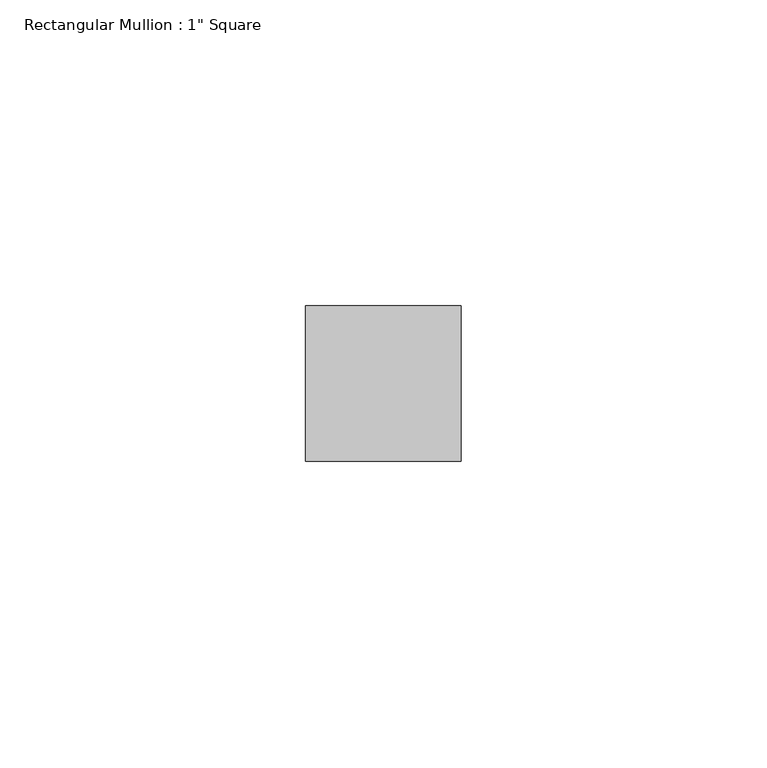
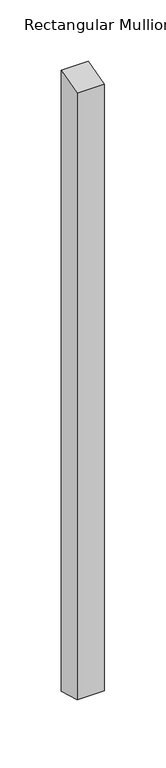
"""IFC4 building model written with IfcOpenShell, lengths in millimetres: member geometry."""

from ifc_helpers import new_model, si_unit, origin, place, context, project, spatial, faceted_brep, source, transform, mapped, element, save


def member_10df8ec0(model_context):
    return source(origin(), model_context, "Body", "Brep", [
        faceted_brep([(-25.4, 12.7, 3.6906694), (0.0, 12.7, 3.7084297), (0.0, 12.7, -612.9412786), (-25.4, 12.7, -612.9252767), (-25.4, -12.7, -3.7261899), (-25.4, -12.7, -606.2427194), (0.0, -12.7, -3.7084297), (0.0, -12.7, -606.2587214)], [[[0, 1, 2, 3]], [[4, 0, 3, 5]], [[6, 4, 5, 7]], [[1, 6, 7, 2]], [[1, 0, 4, 6]], [[2, 7, 5, 3]]]),
    ])


if __name__ == "__main__":
    model = new_model("IFC4")
    model_context = context("Model", 3, world=origin())
    ifc_project = project(units=[si_unit("LENGTHUNIT", "METRE", prefix="MILLI")], contexts=[model_context])
    site = spatial("IfcSite", under=ifc_project)
    building = spatial("IfcBuilding", under=site)
    placement = place(None, origin())
    member_shape = member_10df8ec0(model_context)
    element("IfcMember", 1, ObjectType="Rectangular Mullion : 1\" Square", at=placement, inside=building, context=model_context, shape_type="MappedRepresentation", body=[
        mapped(member_shape, transform((0.0, 0.0, 0.0), x_axis=(1.0, 0.0, 0.0), y_axis=(0.0, 1.0, 0.0), z_axis=(0.0, 0.0, 1.0))),
    ])
    save(model, "model.ifc")
